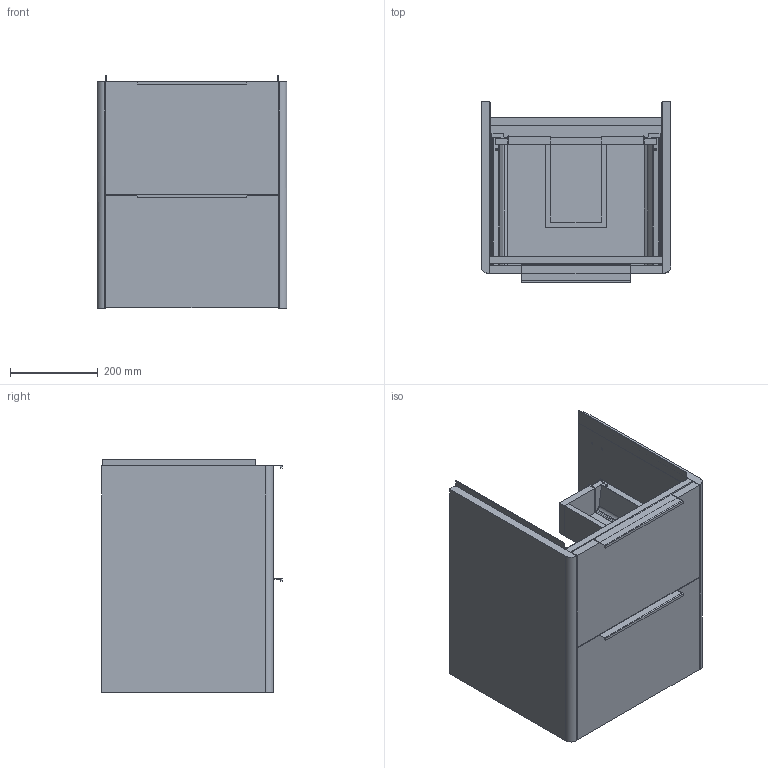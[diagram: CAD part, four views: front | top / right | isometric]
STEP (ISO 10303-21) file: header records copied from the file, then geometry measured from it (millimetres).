
FILE_DESCRIPTION(/* description */ (''),/* implementation_level */ '2;1');
FILE_NAME(/* name */ '3D0EC2~1',/* time_stamp */ '2018-05-07T13:12:55+02:00',/* author */ (''),/* organization */ (''),/* preprocessor_version */ 'ST-DEVELOPER v15',/* originating_system */ '',/* authorisation */ '');
FILE_SCHEMA (('AUTOMOTIVE_DESIGN'));
Length unit declared in the file: millimetre
Products named in the file (23): Document; 300-84_MIR; 300-84_1_MIR; 300-84_2_MIR; 300-84_3_MIR; 300-84; 300-84_1; 300-84_2; 300-84_3; maniglia inferiore; Maniglia superiore; Frontale cassetto inferiore; Retro_cassetto inferiore; Fascia rialzo; Retro cassetto superiore; Fondo cassetto inferiore; Fondo cassetto superiore; Fondo mobile; Fianco dx; Fianco sx; Catena inferiore; Frontale cassetto superiore; Catena_superiore
Assembly tree (24 placements, depth 3):
  Document
    300-84_MIR  x2
      300-84_1_MIR
      300-84_2_MIR
      300-84_3_MIR
    300-84  x2
      300-84_1
      300-84_2
      300-84_3
    maniglia inferiore
    Maniglia superiore
    Frontale cassetto inferiore
    Retro_cassetto inferiore
    Fascia rialzo
    Retro cassetto superiore
    Fondo cassetto inferiore
    Fondo cassetto superiore
    Fondo mobile
    Fianco dx
    Fianco sx
    Catena inferiore
    Frontale cassetto superiore
    Catena_superiore
Bounding box: 432.5 x 411.1 x 529 mm (x, y, z)
Volume: 20192741.3 mm3; surface area: 3079107 mm2
Topology: 28 solids, 28 shells, 1051 faces, 3125 edges, 2166 vertices
Faces by surface type: plane 772, bspline 279
Entity records: 19782 total; most frequent: CARTESIAN_POINT 7907, ORIENTED_EDGE 3454, EDGE_CURVE 1727, B_SPLINE_CURVE_WITH_KNOTS 1283, VERTEX_POINT 1198, EDGE_LOOP 689, ADVANCED_FACE 595, FACE_OUTER_BOUND 595
